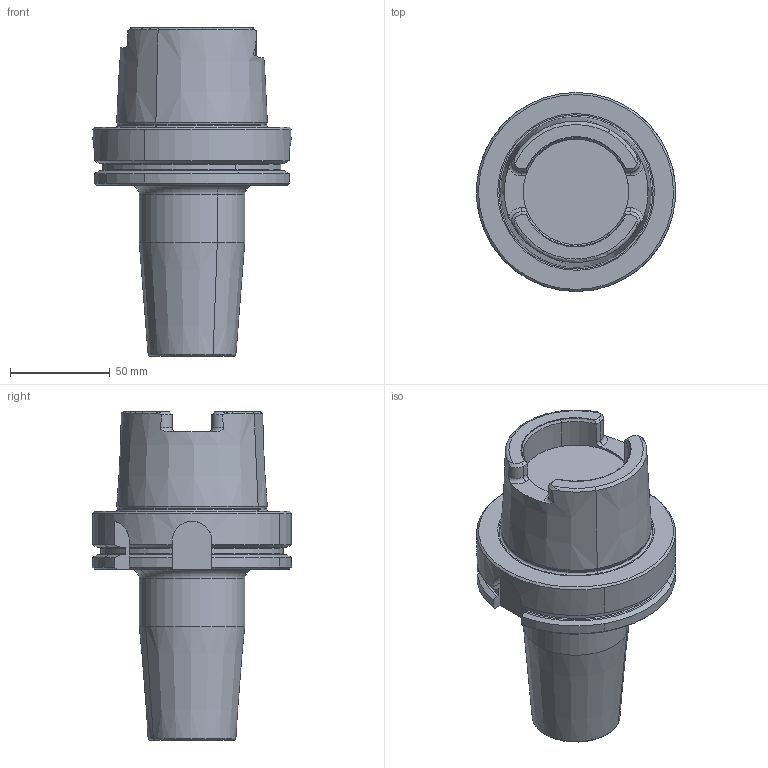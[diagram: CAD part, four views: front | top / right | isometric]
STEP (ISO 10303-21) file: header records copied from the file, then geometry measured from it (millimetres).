
FILE_DESCRIPTION(('CATIA V5 STEP','CAx-IF Rec.Pracs.--- Model Styling and Organization---1.2---2011-12-15'),'2;1');
FILE_NAME('\\nas01\drv1\utils\eitdev\rte\eit\transmagicconvert\db\out\4504223 L.stp','2014-04-06T11:00:24+00:00',('none'),('none'),'CATIA Version 5 Release 21 SP 5 (IN-10)','CATIA V5 STEP AP214','none');
FILE_SCHEMA(('AUTOMOTIVE_DESIGN { 1 0 10303 214 1 1 1 1 }'));
Length unit declared in the file: millimetre
Products named in the file (1): 60951816_0  HSK A 100 SRKIN 25X115
Bounding box: 100 x 100 x 165 mm (x, y, z)
Volume: 556346 mm3; surface area: 51653.2 mm2
Topology: 1 solids, 1 shells, 133 faces, 342 edges, 214 vertices
Faces by surface type: plane 37, cylinder 33, cone 33, torus 30
Entity records: 4097 total; most frequent: CARTESIAN_POINT 1228, ORIENTED_EDGE 684, DIRECTION 427, EDGE_CURVE 342, AXIS2_PLACEMENT_3D 233, VERTEX_POINT 214, CIRCLE 153, EDGE_LOOP 136
